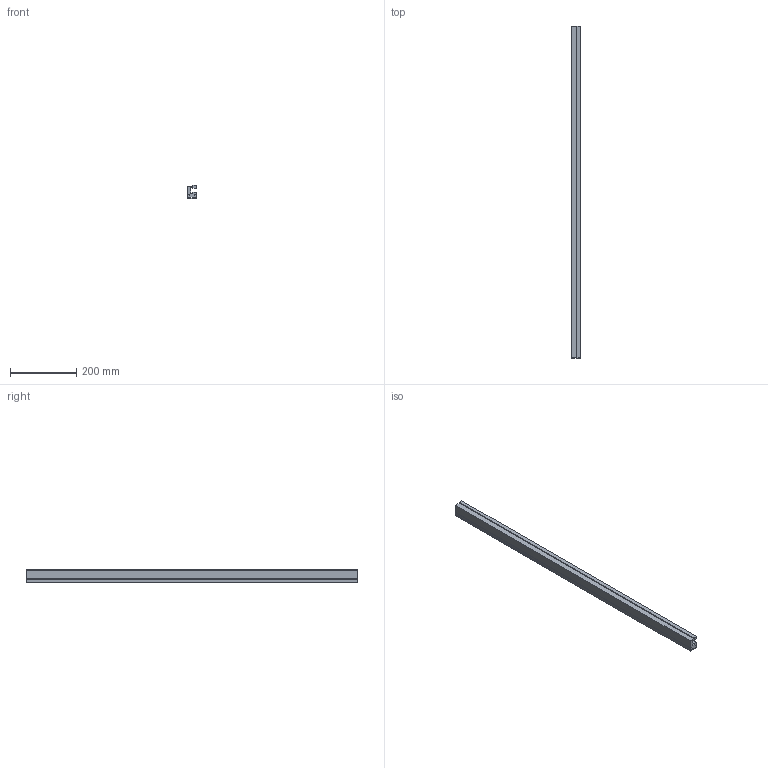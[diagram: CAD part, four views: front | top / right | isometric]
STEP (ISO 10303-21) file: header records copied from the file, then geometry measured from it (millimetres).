
FILE_DESCRIPTION(('CATIA V5 STEP Exchange'),'2;1');
FILE_NAME('C:\Users\ALI OZGUN\Desktop\alhan\PROFILLER\2071TTC34.stp','2017-12-29T14:16:42+00:00',('none'),('none'),'CATIA Version 5 Release 21 GA (IN-10)','CATIA V5 STEP AP203','none');
FILE_SCHEMA(('CONFIG_CONTROL_DESIGN'));
Length unit declared in the file: millimetre
Products named in the file (1): 2071TTC34
Bounding box: 28 x 1000 x 41 mm (x, y, z)
Volume: 794561.6 mm3; surface area: 319872.3 mm2
Topology: 2 solids, 2 shells, 42 faces, 114 edges, 76 vertices
Faces by surface type: plane 38, cylinder 4
Entity records: 1273 total; most frequent: ORIENTED_EDGE 228, CARTESIAN_POINT 220, DIRECTION 172, EDGE_CURVE 114, VECTOR 106, LINE 106, VERTEX_POINT 76, ADVANCED_FACE 42
